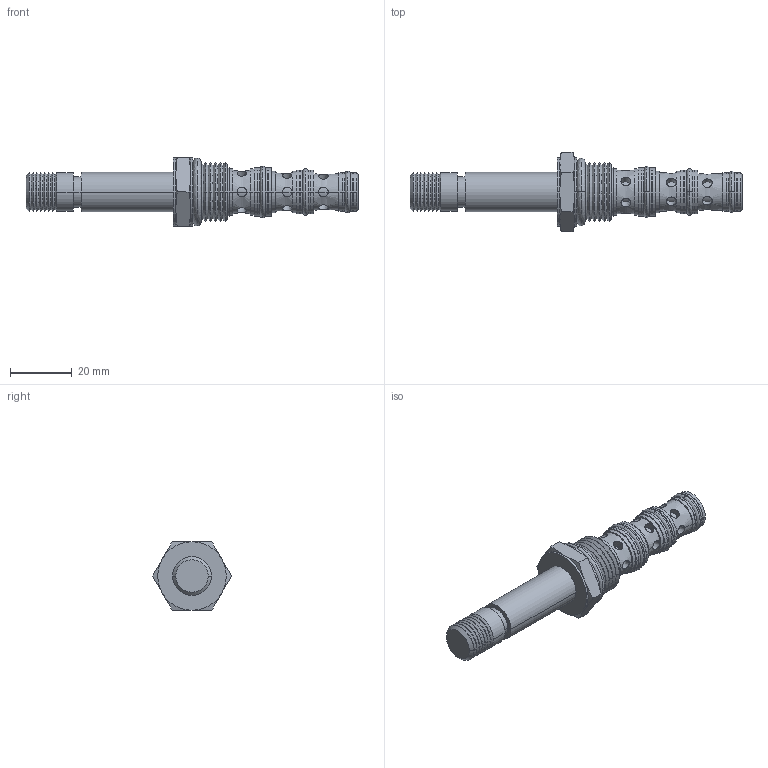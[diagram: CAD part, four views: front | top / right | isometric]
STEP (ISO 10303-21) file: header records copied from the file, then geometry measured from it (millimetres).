
FILE_DESCRIPTION((''),'2;1');
FILE_NAME('U:\Solid model CD\Solid model full\Solenoid\STEP\PQS4B00-3D Full.stp','2008-06-23T11:39:20',('Dan'),(''),'Autodesk Inventor 9','Autodesk Inventor 9','');
FILE_SCHEMA(('AUTOMOTIVE_DESIGN { 1 0 10303 214 1 1 1 1 }'));
Length unit declared in the file: inch
Products named in the file (12): PQS4B00-3D Full; PQS4B00-3D Full1; PQS4B00-3D Full2; PQS4B00-3D Full3; PQS4B00-3D Full4; PQS4B00-3D Full5; PQS4B00-3D Full6; PQS4B00-3D Full7; PQS4B00-3D Full8; PQS4B00-3D Full9; PQS4B00-3D Full10; PQS4B00-3D Full11
Assembly tree (11 placements, depth 2):
  PQS4B00-3D Full
    PQS4B00-3D Full1
    PQS4B00-3D Full2
    PQS4B00-3D Full3
    PQS4B00-3D Full4
    PQS4B00-3D Full5
    PQS4B00-3D Full6
    PQS4B00-3D Full7
    PQS4B00-3D Full8
    PQS4B00-3D Full9
    PQS4B00-3D Full10
    PQS4B00-3D Full11
Bounding box: 107.73 x 25.66 x 22.23 mm (x, y, z)
Volume: 16923.2 mm3; surface area: 9374.4 mm2
Topology: 11 solids, 11 shells, 270 faces, 588 edges, 368 vertices
Faces by surface type: bspline 243, cylinder 26, plane 1
Entity records: 11983 total; most frequent: CARTESIAN_POINT 6680, ORIENTED_EDGE 1176, DIRECTION 826, EDGE_CURVE 588, VERTEX_POINT 368, AXIS2_PLACEMENT_3D 320, EDGE_LOOP 318, CIRCLE 270
